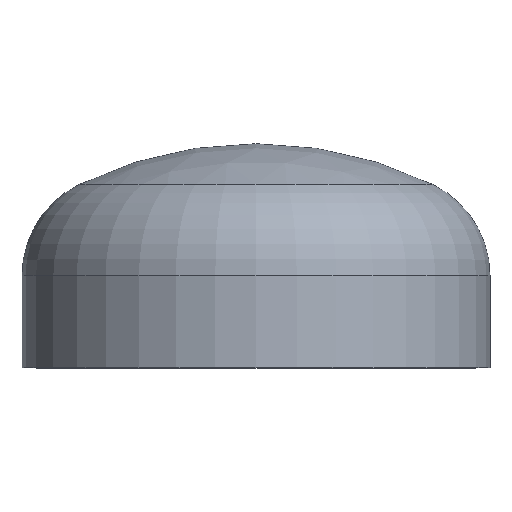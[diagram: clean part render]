
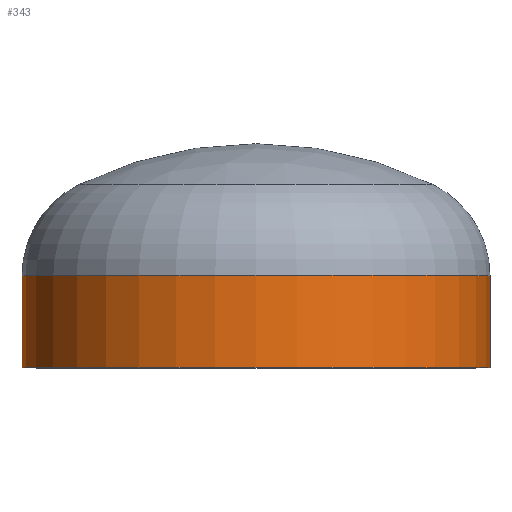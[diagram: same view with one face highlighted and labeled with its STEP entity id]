
A CAD part, top view. The second image highlights one B-rep face of the part: STEP entity #343.
In plain terms, the highlighted cylindrical face has radius 254 mm (diameter 508 mm), a partial arc.
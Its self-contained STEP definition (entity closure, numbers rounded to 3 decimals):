
#18 = AXIS2_PLACEMENT_3D ( 'NONE', #172, #319, #81 ) ;
#20 = EDGE_LOOP ( 'NONE', ( #86, #132, #118, #165 ) ) ;
#37 = VERTEX_POINT ( 'NONE', #316 ) ;
#51 = AXIS2_PLACEMENT_3D ( 'NONE', #95, #97, #202 ) ;
#76 = AXIS2_PLACEMENT_3D ( 'NONE', #127, #124, #120 ) ;
#79 = EDGE_CURVE ( 'NONE', #330, #159, #206, .T. ) ;
#81 = DIRECTION ( 'NONE',  ( 1., 0., 0. ) ) ;
#86 = ORIENTED_EDGE ( 'NONE', *, *, #201, .T. ) ;
#89 = DIRECTION ( 'NONE',  ( 0., -1., 0. ) ) ;
#95 = CARTESIAN_POINT ( 'NONE',  ( 0., 100., 0. ) ) ;
#97 = DIRECTION ( 'NONE',  ( 0., -1., 0. ) ) ;
#108 = CYLINDRICAL_SURFACE ( 'NONE', #18, 254. ) ;
#118 = ORIENTED_EDGE ( 'NONE', *, *, #79, .F. ) ;
#120 = DIRECTION ( 'NONE',  ( 1., 0., 0. ) ) ;
#124 = DIRECTION ( 'NONE',  ( 0., -1., 0. ) ) ;
#127 = CARTESIAN_POINT ( 'NONE',  ( 0., 0., 0. ) ) ;
#132 = ORIENTED_EDGE ( 'NONE', *, *, #365, .T. ) ;
#159 = VERTEX_POINT ( 'NONE', #342 ) ;
#164 = CIRCLE ( 'NONE', #51, 254. ) ;
#165 = ORIENTED_EDGE ( 'NONE', *, *, #404, .F. ) ;
#172 = CARTESIAN_POINT ( 'NONE',  ( 0., 0., 0. ) ) ;
#189 = VERTEX_POINT ( 'NONE', #258 ) ;
#190 = LINE ( 'NONE', #223, #362 ) ;
#201 = EDGE_CURVE ( 'NONE', #37, #189, #164, .T. ) ;
#202 = DIRECTION ( 'NONE',  ( 1., 0., 0. ) ) ;
#206 = CIRCLE ( 'NONE', #76, 254. ) ;
#209 = LINE ( 'NONE', #218, #317 ) ;
#218 = CARTESIAN_POINT ( 'NONE',  ( -254., 0., 0. ) ) ;
#223 = CARTESIAN_POINT ( 'NONE',  ( 254., 0., 0. ) ) ;
#258 = CARTESIAN_POINT ( 'NONE',  ( -254., 100., 0. ) ) ;
#280 = FACE_OUTER_BOUND ( 'NONE', #20, .T. ) ;
#316 = CARTESIAN_POINT ( 'NONE',  ( 254., 100., 0. ) ) ;
#317 = VECTOR ( 'NONE', #369, 1000. ) ;
#319 = DIRECTION ( 'NONE',  ( 0., -1., 0. ) ) ;
#330 = VERTEX_POINT ( 'NONE', #361 ) ;
#342 = CARTESIAN_POINT ( 'NONE',  ( -254., 0., 0. ) ) ;
#343 = ADVANCED_FACE ( 'NONE', ( #280 ), #108, .T. ) ;
#361 = CARTESIAN_POINT ( 'NONE',  ( 254., 0., 0. ) ) ;
#362 = VECTOR ( 'NONE', #89, 1000. ) ;
#365 = EDGE_CURVE ( 'NONE', #189, #159, #209, .T. ) ;
#369 = DIRECTION ( 'NONE',  ( 0., -1., 0. ) ) ;
#404 = EDGE_CURVE ( 'NONE', #37, #330, #190, .T. ) ;
